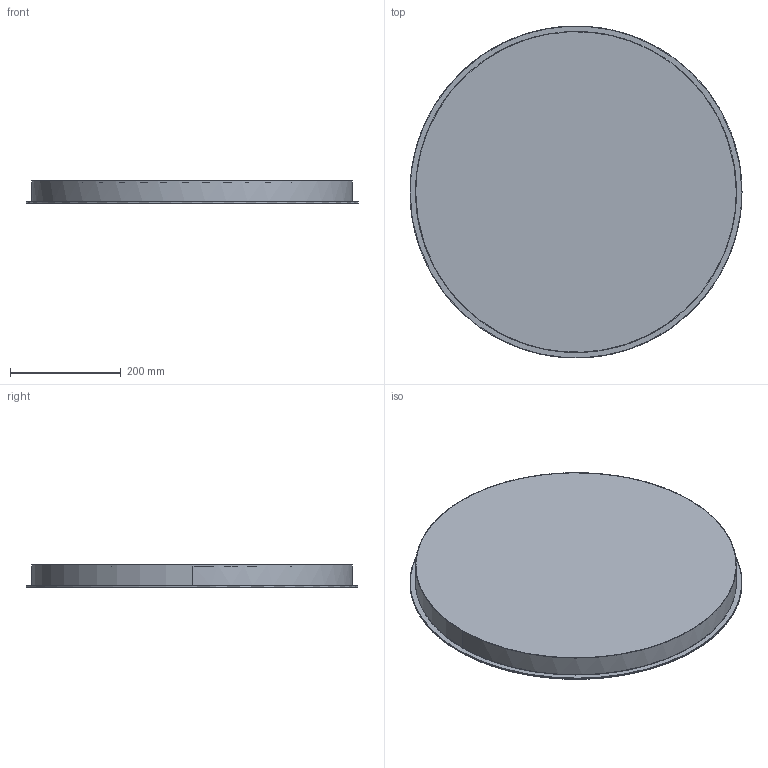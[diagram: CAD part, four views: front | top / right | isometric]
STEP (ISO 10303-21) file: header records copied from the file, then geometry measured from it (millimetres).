
FILE_DESCRIPTION(/* description */ (''),/* implementation_level */ '2;1');
FILE_NAME(/* name */ '9UFN5J~6',/* time_stamp */ '2026-03-05T15:52:07+01:00',/* author */ (''),/* organization */ (''),/* preprocessor_version */ 'ST-DEVELOPER v16.5',/* originating_system */ '',/* authorisation */ '');
FILE_SCHEMA (('AUTOMOTIVE_DESIGN'));
Length unit declared in the file: millimetre
Products named in the file (1): Document
Bounding box: 600 x 599.82 x 40.5 mm (x, y, z)
Volume: 1539659.6 mm3; surface area: 1232396.9 mm2
Topology: 2 solids, 4 shells, 92 faces, 208 edges, 122 vertices
Faces by surface type: bspline 92
Entity records: 6068 total; most frequent: CARTESIAN_POINT 3562, ORIENTED_EDGE 408, PCURVE 408, DEFINITIONAL_REPRESENTATION 408, B_SPLINE_CURVE_WITH_KNOTS 374, SURFACE_CURVE 208, EDGE_CURVE 208, VERTEX_POINT 122
